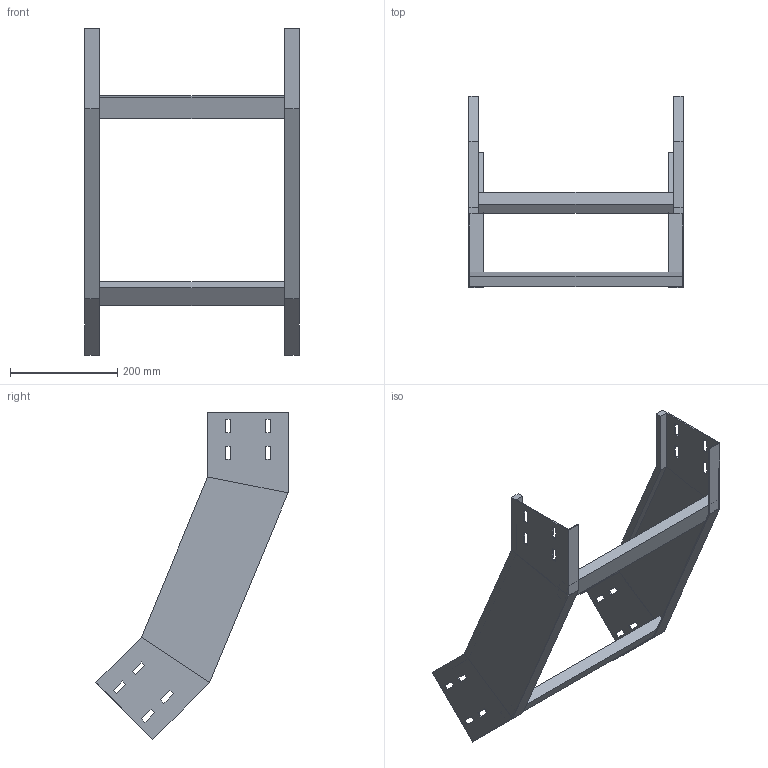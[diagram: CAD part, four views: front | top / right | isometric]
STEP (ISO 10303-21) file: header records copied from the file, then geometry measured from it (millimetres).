
FILE_DESCRIPTION (( 'STEP AP214' ), '1' );
FILE_NAME ('31J5F400.step', '2025-02-21T16:26:18', ( '' ), ( '' ), 'SwSTEP 2.0', 'SolidWorks 2023', '' );
FILE_SCHEMA (( 'AUTOMOTIVE_DESIGN' ));
Length unit declared in the file: millimetre
Products named in the file (3): LONGH.SALITA_45°_H150_R500; TRAVERSINO_400; 31J5F400
Assembly tree (4 placements, depth 2):
  31J5F400
    LONGH.SALITA_45°_H150_R500  x2
    TRAVERSINO_400  x2
Bounding box: 400 x 358.7 x 609.91 mm (x, y, z)
Volume: 1294812 mm3; surface area: 579798.1 mm2
Topology: 4 solids, 4 shells, 128 faces, 328 edges, 208 vertices
Faces by surface type: plane 128
Entity records: 2016 total; most frequent: CARTESIAN_POINT 339, ORIENTED_EDGE 328, DIRECTION 306, EDGE_CURVE 164, VECTOR 164, LINE 164, VERTEX_POINT 104, EDGE_LOOP 80
